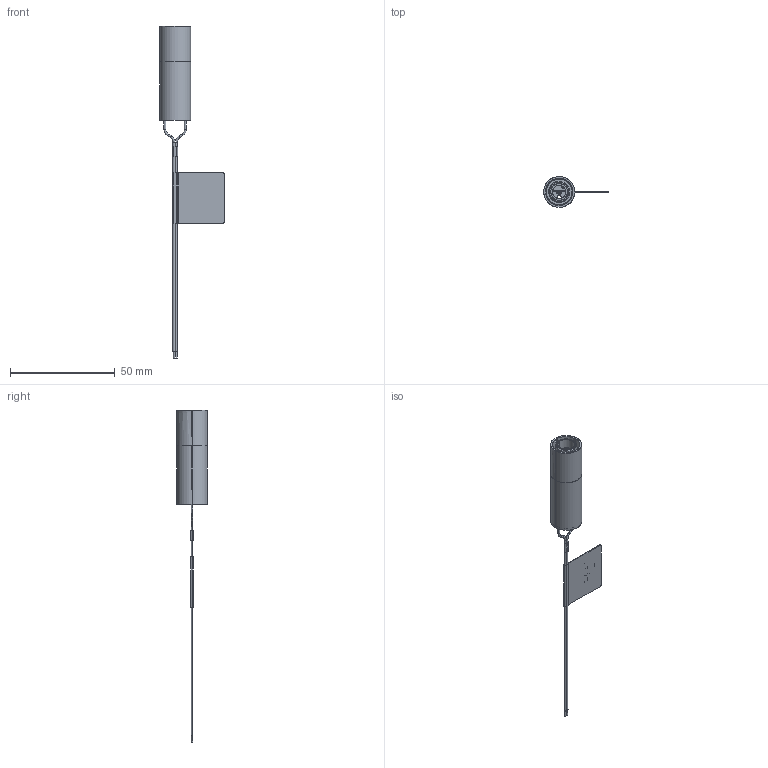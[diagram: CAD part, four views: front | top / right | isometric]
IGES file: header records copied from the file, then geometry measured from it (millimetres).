
Start section: SolidWorks IGES file using analytic representation for surfaces
Global section: file name: N:\POR\Public\PLMProductInfo\VLM ULN\VLM2-3RL\VLM2-3RL.IGS; native system: SolidWorks 2019; preprocessor: SolidWorks 2019; author: LewisD; date: 200109.094525; units: inch
Bounding box: 30.82 x 14.76 x 158.53 mm (x, y, z)
Surface area: 6527.5 mm2 (no closed solid volume)
Topology: 0 solids, 0 shells, 179 faces, 1973 edges, 1973 vertices
Faces by surface type: bspline 117, revolution 62
